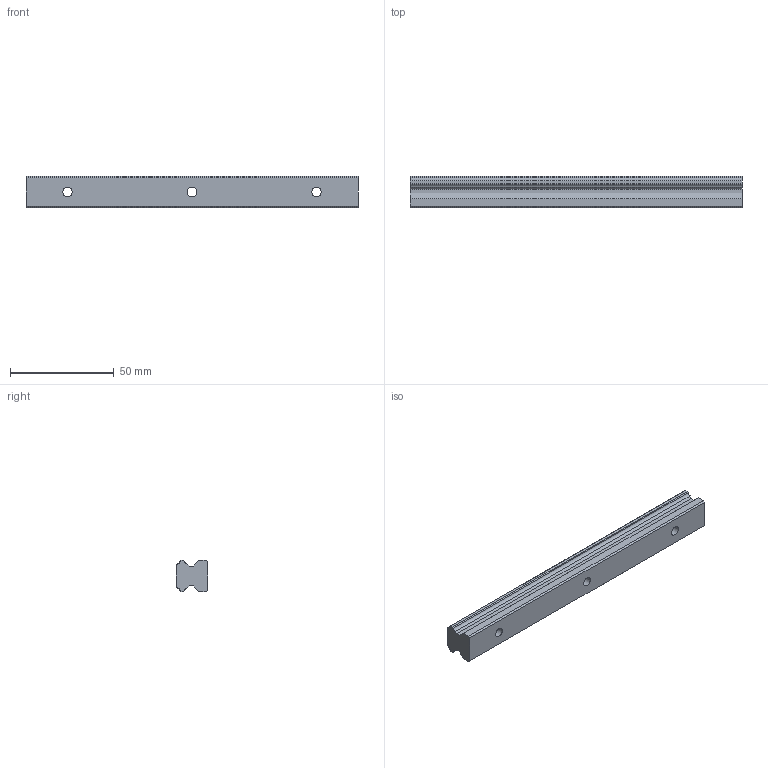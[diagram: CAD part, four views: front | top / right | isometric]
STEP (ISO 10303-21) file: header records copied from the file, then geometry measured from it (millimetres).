
FILE_DESCRIPTION(/* description */ ('STEP AP203'),/* implementation_level */ '2;1');
FILE_NAME(/* name */ 'HSR15-160L(GK) RAIL(20)',/* time_stamp */ '2024-05-21T04:43:46+02:00',/* author */ ('License CC BY-ND 4.0'),/* organization */ ('CADENAS'),/* preprocessor_version */ 'ST-DEVELOPER v19.3',/* originating_system */ 'PARTsolutions',/* authorisation */ ' ');
FILE_SCHEMA (('CONFIG_CONTROL_DESIGN'));
Length unit declared in the file: millimetre
Products named in the file (1): HSR15-160L(GK) RAIL(20)
Bounding box: 160 x 15 x 15 mm (x, y, z)
Volume: 29750.2 mm3; surface area: 10946.5 mm2
Topology: 1 solids, 1 shells, 35 faces, 90 edges, 60 vertices
Faces by surface type: plane 25, cylinder 10
Full cylindrical faces by diameter (mm): 4.5 x3, 7.5 x3
Entity records: 1076 total; most frequent: CARTESIAN_POINT 180, DIRECTION 176, ORIENTED_EDGE 168, EDGE_CURVE 84, LINE 64, VECTOR 64, VERTEX_POINT 60, AXIS2_PLACEMENT_3D 56
